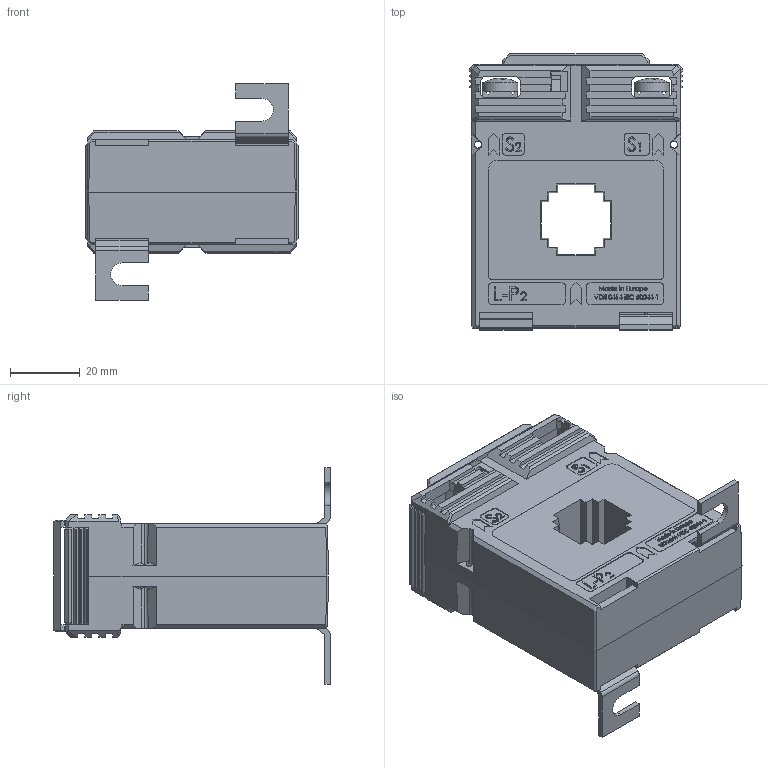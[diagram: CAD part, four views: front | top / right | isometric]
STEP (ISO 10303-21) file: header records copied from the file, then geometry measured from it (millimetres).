
FILE_DESCRIPTION (( 'STEP AP214' ), '1' );
FILE_NAME ('EASK21_3_kpl.STEP', '2011-11-23T08:43:27', ( ' ' ), ( '' ), 'SwSTEP 2.0', 'SolidWorks 2010', '' );
FILE_SCHEMA (( 'AUTOMOTIVE_DESIGN' ));
Length unit declared in the file: millimetre
Products named in the file (8): Linsenschraube DIN 7985 4.8 VZ M 5 x 10; Plombierplatte_C; EASK21_3_11_Gehäuseoberteil; EASK21_3_kpl; MBS_WN-003_04_Klemme_WN-003_02; Verschlussklappe_28mm; Fusswinkel_1,5; EASK21_3_11
Assembly tree (13 placements, depth 2):
  EASK21_3_kpl
    Verschlussklappe_28mm  x2
    Linsenschraube DIN 7985 4.8 VZ M 5 x 10  x4
    MBS_WN-003_04_Klemme_WN-003_02  x2
    Plombierplatte_C
    Fusswinkel_1,5  x2
    EASK21_3_11
    EASK21_3_11_Gehäuseoberteil
Bounding box: 61 x 79 x 62 mm (x, y, z)
Volume: 120565.8 mm3; surface area: 43056.8 mm2
Topology: 13 solids, 13 shells, 1778 faces, 4672 edges, 3040 vertices
Faces by surface type: plane 1298, bspline 312, cylinder 100, cone 44, sphere 16, torus 8
Entity records: 65208 total; most frequent: CARTESIAN_POINT 28004, ORIENTED_EDGE 8324, DIRECTION 6190, EDGE_CURVE 4162, VECTOR 3286, LINE 3286, VERTEX_POINT 2742, EDGE_LOOP 1702
